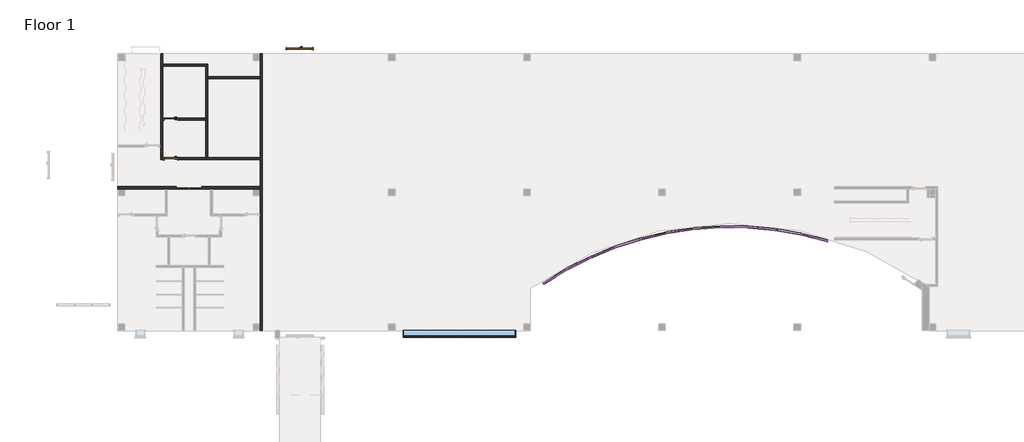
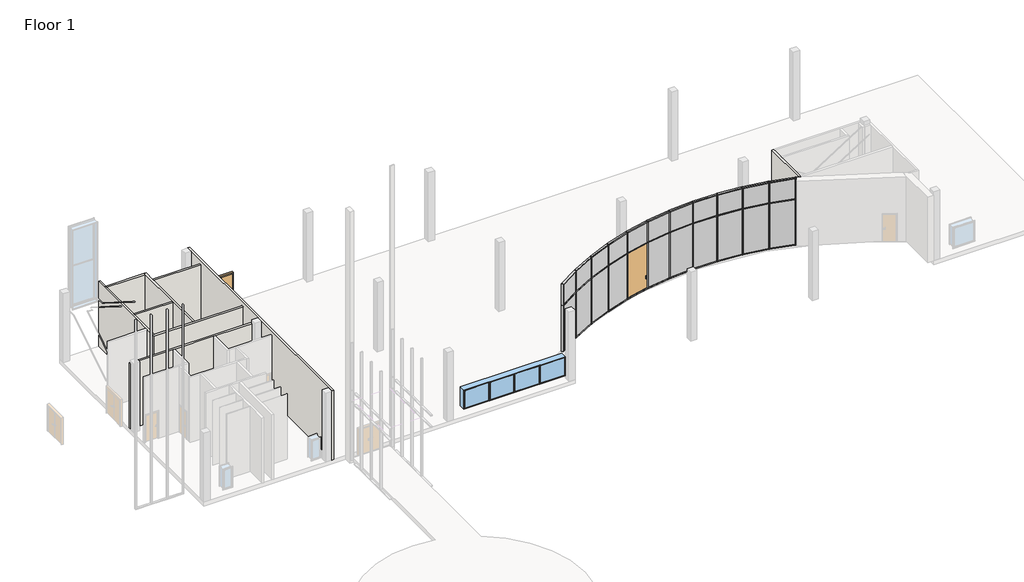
# One storey, part 10 of 11: 57 members, 21 plates, 9 walls, 5 doors, 1 window.
"""IFC4 building model written with IfcOpenShell, lengths in millimetres."""

from ifc_helpers import new_model, si_unit, frame, origin, origin_with_axes, place, context, project, spatial, polyline, circle_curve, outline, extrude, faceted_brep, transform, mapped, element, save
from ifc_brep_helpers import plane_surface, revolved_surface, advanced_brep
from components import door_f1125a27, door_curtain_wall_single_glass_door_curtain_wall_single_fb26e63e, door_efda3cbc, door_36f17018, member_810865a4, member_a8d07153, member_2ed1719b, member_780b0c29, member_079229cb, member_fbbd287a, member_7b0b344d, member_78ef575d, member_0a0eb772, member_38e9bff8, member_4d31274b, member_062c1ce8, system_panel_glazed_f2ce933e, system_panel_glazed_7e716341, system_panel_glazed_e9b7a680, system_panel_glazed_22c1f233, system_panel_glazed_df2c046e, system_panel_glazed_ed69608e, window_casement_multi_sash_horizontal_25_x_5ft_0e5d08e3

model = new_model("IFC4")

# Units and contexts
model_context = context("Model", 3, world=origin())
ifc_project = project(units=[si_unit("LENGTHUNIT", "METRE", prefix="MILLI")], contexts=[model_context])

# Site, building, storey
site = spatial("IfcSite", under=ifc_project)
building = spatial("IfcBuilding", under=site)
storey = spatial("IfcBuildingStorey", under=building, Name="Floor 1", Elevation=0.0)

# Doors
placement = place(None, origin())
door_shape = door_f1125a27(model_context)
element("IfcDoor", 1, ObjectType="Dbl Acting Dbl Glass 1 : 68\" x 84\"", at=placement, inside=storey, context=model_context, shape_type="MappedRepresentation", body=[
    mapped(door_shape, transform((1836.7692024, 48316.361889, 0.0), x_axis=(-1.0, 0.0, 0.0), y_axis=(0.0, -1.0, 0.0), z_axis=(0.0, 0.0, 1.0))),
])
door_curtain_wall_single_glass_door_curtain_wall_single_shape = door_curtain_wall_single_glass_door_curtain_wall_single_fb26e63e(model_context)
element("IfcDoor", 2, ObjectType="Door-Curtain-Wall-Single-Glass : Door-Curtain-Wall-Single-Glass", at=placement, inside=storey, context=model_context, shape_type="MappedRepresentation", body=[
    mapped(door_curtain_wall_single_glass_door_curtain_wall_single_shape, transform((33285.426243, 45040.0257486, 63.5), x_axis=(-0.9735380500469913, -0.22852497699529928, 0.0), y_axis=(0.22852497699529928, -0.9735380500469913, 0.0), z_axis=(0.0, 0.0, 1.0))),
])
door_2_shape = door_efda3cbc(model_context)
element("IfcDoor", 3, ObjectType="Door-Passage-Double-Flush : 68\" x 80\"", at=placement, inside=storey, context=model_context, shape_type="MappedRepresentation", body=[
    mapped(door_2_shape, transform((9318.6567024, 57587.361889, 0.0), x_axis=(1.0, 0.0, 0.0), y_axis=(0.0, 1.0, 0.0), z_axis=(0.0, 0.0, 1.0))),
])
door_3_shape = door_36f17018(model_context)
element("IfcDoor", 4, ObjectType="Door-Passage-Single-Flush : 36\" x 84\"", at=placement, inside=storey, context=model_context, shape_type="MappedRepresentation", body=[
    mapped(door_3_shape, transform((617.5692024, 50253.111889, 0.0), x_axis=(-1.0, 0.0, 0.0), y_axis=(0.0, -1.0, 0.0), z_axis=(0.0, 0.0, 1.0))),
])
element("IfcDoor", 5, ObjectType="Door-Passage-Single-Flush : 36\" x 84\"", at=placement, inside=storey, context=model_context, shape_type="MappedRepresentation", body=[
    mapped(door_3_shape, transform((617.5692024, 52945.511889, 0.0), x_axis=(-1.0, 0.0, 0.0), y_axis=(0.0, -1.0, 0.0), z_axis=(0.0, 0.0, 1.0))),
])

# Members
member_shape = member_810865a4(model_context)
element("IfcMember", 6, ObjectType="Rectangular Mullion1 : 2.5\" x 5\" rectangular", at=placement, inside=storey, context=model_context, shape_type="MappedRepresentation", body=[
    mapped(member_shape, transform((43260.2618426, 45154.6273749, 0.0), x_axis=(-0.9777848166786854, 0.20961119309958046, 0.0), y_axis=(0.20961119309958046, 0.9777848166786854, 0.0), z_axis=(0.0, 0.0, -1.0))),
])
element("IfcMember", 7, ObjectType="Rectangular Mullion1 : 2.5\" x 5\" rectangular", at=placement, inside=storey, context=model_context, shape_type="MappedRepresentation", body=[
    mapped(member_shape, transform((41458.1406847, 45465.8648604, 0.0), x_axis=(-0.991449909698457, 0.1304878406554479, 0.0), y_axis=(0.1304878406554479, 0.991449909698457, 0.0), z_axis=(0.0, 0.0, -1.0))),
])
element("IfcMember", 8, ObjectType="Rectangular Mullion1 : 2.5\" x 5\" rectangular", at=placement, inside=storey, context=model_context, shape_type="MappedRepresentation", body=[
    mapped(member_shape, transform((39636.8583065, 45631.5149097, 0.0), x_axis=(-0.9987228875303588, 0.050523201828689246, 0.0), y_axis=(0.050523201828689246, 0.9987228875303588, 0.0), z_axis=(0.0, 0.0, -1.0))),
])
element("IfcMember", 9, ObjectType="Rectangular Mullion1 : 2.5\" x 5\" rectangular", at=placement, inside=storey, context=model_context, shape_type="MappedRepresentation", body=[
    mapped(member_shape, transform((37808.156952, 45650.5095372, 0.0), x_axis=(-0.9995568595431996, -0.02976717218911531, 0.0), y_axis=(-0.02976717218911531, 0.9995568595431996, 0.0), z_axis=(0.0, 0.0, -1.0))),
])
element("IfcMember", 10, ObjectType="Rectangular Mullion1 : 2.5\" x 5\" rectangular", at=placement, inside=storey, context=model_context, shape_type="MappedRepresentation", body=[
    mapped(member_shape, transform((35983.826697, 45522.7262801, 0.0), x_axis=(-0.9939464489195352, -0.10986563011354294, 0.0), y_axis=(-0.10986563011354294, 0.9939464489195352, 0.0), z_axis=(0.0, 0.0, -1.0))),
])
element("IfcMember", 11, ObjectType="Rectangular Mullion1 : 2.5\" x 5\" rectangular", at=placement, inside=storey, context=model_context, shape_type="MappedRepresentation", body=[
    mapped(member_shape, transform((34175.629436, 45248.9889876, 0.0), x_axis=(-0.9819278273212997, -0.1892557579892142, 0.0), y_axis=(-0.1892557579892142, 0.9819278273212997, 0.0), z_axis=(0.0, 0.0, -1.0))),
])
element("IfcMember", 12, ObjectType="Rectangular Mullion1 : 2.5\" x 5\" rectangular", at=placement, inside=storey, context=model_context, shape_type="MappedRepresentation", body=[
    mapped(member_shape, transform((32395.2230501, 44831.0625097, 0.0), x_axis=(-0.9635784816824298, -0.2674257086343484, 0.0), y_axis=(-0.2674257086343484, 0.9635784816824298, 0.0), z_axis=(0.0, 0.0, -1.0))),
])
element("IfcMember", 13, ObjectType="Rectangular Mullion1 : 2.5\" x 5\" rectangular", at=placement, inside=storey, context=model_context, shape_type="MappedRepresentation", body=[
    mapped(member_shape, transform((30654.0862459, 44271.6413185, 0.0), x_axis=(-0.9390167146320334, -0.3438715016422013, 0.0), y_axis=(-0.3438715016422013, 0.9390167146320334, 0.0), z_axis=(0.0, 0.0, -1.0))),
])
element("IfcMember", 14, ObjectType="Rectangular Mullion1 : 2.5\" x 5\" rectangular", at=placement, inside=storey, context=model_context, shape_type="MappedRepresentation", body=[
    mapped(member_shape, transform((28963.4445498, 43574.3321365, 0.0), x_axis=(-0.908400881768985, -0.41810027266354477, 0.0), y_axis=(-0.41810027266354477, 0.908400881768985, 0.0), z_axis=(0.0, 0.0, -1.0))),
])
element("IfcMember", 15, ObjectType="Rectangular Mullion1 : 2.5\" x 5\" rectangular", at=placement, inside=storey, context=model_context, shape_type="MappedRepresentation", body=[
    mapped(member_shape, transform((27334.1979339, 42743.6306832, 0.0), x_axis=(-0.8719283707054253, -0.4896334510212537, 0.0), y_axis=(-0.4896334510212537, 0.8719283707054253, 0.0), z_axis=(0.0, 0.0, -1.0))),
])
member_2_shape = member_a8d07153(model_context)
element("IfcMember", 16, ObjectType="Rectangular Mullion1 : 2.5\" x 5\" rectangular", at=placement, inside=storey, context=model_context, shape_type="MappedRepresentation", body=[
    mapped(member_2_shape, transform((25856.7132783, 41835.4455096, 5334.0), x_axis=(0.0, 0.0, 1.0), y_axis=(-0.5236640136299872, 0.8519248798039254, 0.0), z_axis=(-0.8519248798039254, -0.5236640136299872, 0.0))),
])
member_3_shape = member_2ed1719b(model_context)
element("IfcMember", 17, ObjectType="Rectangular Mullion1 : 2.5\" x 5\" rectangular", at=placement, inside=storey, context=model_context, shape_type="MappedRepresentation", body=[
    mapped(member_3_shape, transform((44970.0981911, 44715.6013715, 0.0), x_axis=(0.0, 0.0, -1.0), y_axis=(0.24869767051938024, 0.9685811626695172, 0.0), z_axis=(0.9685811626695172, -0.24869767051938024, 0.0))),
])
member_4_shape = member_780b0c29(model_context)
element("IfcMember", 18, ObjectType="Rectangular Mullion1 : 2.5\" x 5\" rectangular", at=placement, inside=storey, context=model_context, shape_type="MappedRepresentation", body=[
    mapped(member_4_shape, transform((43291.0142945, 45146.7312239, 3657.6), x_axis=(0.0, 0.0, 1.0), y_axis=(0.24869767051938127, 0.968581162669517, 0.0), z_axis=(-0.968581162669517, 0.24869767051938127, 0.0))),
])
member_5_shape = member_079229cb(model_context)
element("IfcMember", 19, ObjectType="Rectangular Mullion1 : 2.5\" x 5\" rectangular", at=placement, inside=storey, context=model_context, shape_type="MappedRepresentation", body=[
    mapped(member_5_shape, transform((41489.4275104, 45460.4614318, 3657.6), x_axis=(0.0, 0.0, 1.0), y_axis=(0.17018672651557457, 0.9854118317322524, 0.0), z_axis=(-0.9854118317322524, 0.17018672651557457, 0.0))),
])
element("IfcMember", 20, ObjectType="Rectangular Mullion1 : 2.5\" x 5\" rectangular", at=placement, inside=storey, context=model_context, shape_type="MappedRepresentation", body=[
    mapped(member_5_shape, transform((39668.4777923, 45628.6390408, 3657.6), x_axis=(0.0, 0.0, 1.0), y_axis=(0.09057854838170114, 0.9958893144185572, 0.0), z_axis=(-0.9958893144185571, 0.09057854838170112, 0.0))),
])
element("IfcMember", 21, ObjectType="Rectangular Mullion1 : 2.5\" x 5\" rectangular", at=placement, inside=storey, context=model_context, shape_type="MappedRepresentation", body=[
    mapped(member_5_shape, transform((37839.9052394, 45650.1797694, 3657.6), x_axis=(0.0, 0.0, 1.0), y_axis=(0.010386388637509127, 0.9999460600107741, 0.0), z_axis=(-0.9999460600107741, 0.010386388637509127, 0.0))),
])
element("IfcMember", 22, ObjectType="Rectangular Mullion1 : 2.5\" x 5\" rectangular", at=placement, inside=storey, context=model_context, shape_type="MappedRepresentation", body=[
    mapped(member_5_shape, transform((36015.4990973, 45524.9447394, 3657.6), x_axis=(0.0, 0.0, 1.0), y_axis=(-0.06987273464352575, 0.9975559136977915, 0.0), z_axis=(-0.9975559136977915, -0.06987273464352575, 0.0))),
])
element("IfcMember", 23, ObjectType="Rectangular Mullion1 : 2.5\" x 5\" rectangular", at=placement, inside=storey, context=model_context, shape_type="MappedRepresentation", body=[
    mapped(member_5_shape, transform((34207.0217496, 45253.7413712, 3657.6), x_axis=(0.0, 0.0, 1.0), y_axis=(-0.14968137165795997, 0.9887342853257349, 0.0), z_axis=(-0.9887342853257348, -0.14968137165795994, 0.0))),
])
element("IfcMember", 24, ObjectType="Rectangular Mullion1 : 2.5\" x 5\" rectangular", at=placement, inside=storey, context=model_context, shape_type="MappedRepresentation", body=[
    mapped(member_5_shape, transform((32426.1328832, 44838.3181777, 3657.6), x_axis=(0.0, 0.0, 1.0), y_axis=(-0.22852497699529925, 0.9735380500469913, 0.0), z_axis=(-0.9735380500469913, -0.22852497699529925, 0.0))),
])
element("IfcMember", 25, ObjectType="Rectangular Mullion1 : 2.5\" x 5\" rectangular", at=placement, inside=storey, context=model_context, shape_type="MappedRepresentation", body=[
    mapped(member_5_shape, transform((30684.3143154, 44281.3534919, 3657.6), x_axis=(0.0, 0.0, 1.0), y_axis=(-0.3058952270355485, 0.9520651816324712, 0.0), z_axis=(-0.9520651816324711, -0.30589522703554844, 0.0))),
])
element("IfcMember", 26, ObjectType="Rectangular Mullion1 : 2.5\" x 5\" rectangular", at=placement, inside=storey, context=model_context, shape_type="MappedRepresentation", body=[
    mapped(member_5_shape, transform((28992.7959681, 43586.4381987, 3657.6), x_axis=(0.0, 0.0, 1.0), y_axis=(-0.38129329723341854, 0.924454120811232, 0.0), z_axis=(-0.924454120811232, -0.38129329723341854, 0.0))),
])
element("IfcMember", 27, ObjectType="Rectangular Mullion1 : 2.5\" x 5\" rectangular", at=placement, inside=storey, context=model_context, shape_type="MappedRepresentation", body=[
    mapped(member_5_shape, transform((27362.4834654, 42758.0525834, 3657.6), x_axis=(0.0, 0.0, 1.0), y_axis=(-0.45423307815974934, 0.8908828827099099, 0.0), z_axis=(-0.8908828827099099, -0.45423307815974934, 0.0))),
])
member_6_shape = member_fbbd287a(model_context)
element("IfcMember", 28, ObjectType="Rectangular Mullion1 : 2.5\" x 5\" rectangular", at=placement, inside=storey, context=model_context, shape_type="MappedRepresentation", body=[
    mapped(member_6_shape, transform((25856.7132783, 41835.4455096, 3657.6), x_axis=(0.0, 0.0, 1.0), y_axis=(-0.523664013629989, 0.8519248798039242, 0.0), z_axis=(-0.8519248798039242, -0.523664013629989, 0.0))),
])
member_7_shape = member_7b0b344d(model_context)
element("IfcMember", 29, ObjectType="Rectangular Mullion1 : 2.5\" x 5\" rectangular", at=placement, inside=storey, context=model_context, shape_type="MappedRepresentation", body=[
    mapped(member_7_shape, transform((43228.975017, 45160.0308035, 0.0), x_axis=(0.0, 0.0, -1.0), y_axis=(0.1701867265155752, 0.9854118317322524, 0.0), z_axis=(0.9854118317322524, -0.1701867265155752, 0.0))),
])
element("IfcMember", 30, ObjectType="Rectangular Mullion1 : 2.5\" x 5\" rectangular", at=placement, inside=storey, context=model_context, shape_type="MappedRepresentation", body=[
    mapped(member_7_shape, transform((41426.521199, 45468.7407293, 0.0), x_axis=(0.0, 0.0, -1.0), y_axis=(0.09057854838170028, 0.9958893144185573, 0.0), z_axis=(0.9958893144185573, -0.09057854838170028, 0.0))),
])
element("IfcMember", 31, ObjectType="Rectangular Mullion1 : 2.5\" x 5\" rectangular", at=placement, inside=storey, context=model_context, shape_type="MappedRepresentation", body=[
    mapped(member_7_shape, transform((39605.1100191, 45631.8446775, 0.0), x_axis=(0.0, 0.0, -1.0), y_axis=(0.010386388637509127, 0.9999460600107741, 0.0), z_axis=(0.9999460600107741, -0.010386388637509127, 0.0))),
])
element("IfcMember", 32, ObjectType="Rectangular Mullion1 : 2.5\" x 5\" rectangular", at=placement, inside=storey, context=model_context, shape_type="MappedRepresentation", body=[
    mapped(member_7_shape, transform((37776.4845517, 45648.2910779, 0.0), x_axis=(0.0, 0.0, -1.0), y_axis=(-0.06987273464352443, 0.9975559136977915, 0.0), z_axis=(0.9975559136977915, 0.06987273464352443, 0.0))),
])
element("IfcMember", 33, ObjectType="Rectangular Mullion1 : 2.5\" x 5\" rectangular", at=placement, inside=storey, context=model_context, shape_type="MappedRepresentation", body=[
    mapped(member_7_shape, transform((35952.4343835, 45517.9738965, 0.0), x_axis=(0.0, 0.0, -1.0), y_axis=(-0.14968137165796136, 0.9887342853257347, 0.0), z_axis=(0.9887342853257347, 0.14968137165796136, 0.0))),
])
element("IfcMember", 34, ObjectType="Rectangular Mullion1 : 2.5\" x 5\" rectangular", at=placement, inside=storey, context=model_context, shape_type="MappedRepresentation", body=[
    mapped(member_7_shape, transform((34144.7196029, 45241.7333196, 0.0), x_axis=(0.0, 0.0, -1.0), y_axis=(-0.22852497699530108, 0.9735380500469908, 0.0), z_axis=(0.9735380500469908, 0.22852497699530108, 0.0))),
])
element("IfcMember", 35, ObjectType="Rectangular Mullion1 : 2.5\" x 5\" rectangular", at=placement, inside=storey, context=model_context, shape_type="MappedRepresentation", body=[
    mapped(member_7_shape, transform((32364.9949806, 44821.3503362, 0.0), x_axis=(0.0, 0.0, -1.0), y_axis=(-0.30589522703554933, 0.9520651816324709, 0.0), z_axis=(0.9520651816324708, 0.3058952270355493, 0.0))),
])
element("IfcMember", 36, ObjectType="Rectangular Mullion1 : 2.5\" x 5\" rectangular", at=placement, inside=storey, context=model_context, shape_type="MappedRepresentation", body=[
    mapped(member_7_shape, transform((30624.7348276, 44259.5352563, 0.0), x_axis=(0.0, 0.0, -1.0), y_axis=(-0.38129329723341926, 0.9244541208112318, 0.0), z_axis=(0.9244541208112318, 0.38129329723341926, 0.0))),
])
element("IfcMember", 37, ObjectType="Rectangular Mullion1 : 2.5\" x 5\" rectangular", at=placement, inside=storey, context=model_context, shape_type="MappedRepresentation", body=[
    mapped(member_7_shape, transform((28935.1590182, 43559.9102363, 0.0), x_axis=(0.0, 0.0, -1.0), y_axis=(-0.4542330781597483, 0.8908828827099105, 0.0), z_axis=(0.8908828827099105, 0.4542330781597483, 0.0))),
])
member_8_shape = member_78ef575d(model_context)
element("IfcMember", 38, ObjectType="Rectangular Mullion1 : 2.5\" x 5\" rectangular", at=placement, inside=storey, context=model_context, shape_type="MappedRepresentation", body=[
    mapped(member_8_shape, transform((27307.1493189, 42727.0043507, 0.0), x_axis=(0.0, 0.0, -1.0), y_axis=(-0.5236640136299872, 0.8519248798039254, 0.0), z_axis=(0.8519248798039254, 0.5236640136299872, 0.0))),
])
member_9_shape = member_0a0eb772(model_context)
element("IfcMember", 39, ObjectType="Rectangular Mullion1 : 2.5\" x 5\" rectangular", at=placement, inside=storey, context=model_context, shape_type="MappedRepresentation", body=[
    mapped(member_9_shape, transform((43291.0142945, 45146.7312239, 5334.0), x_axis=(0.0, 0.0, 1.0), y_axis=(0.24869767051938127, 0.968581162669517, 0.0), z_axis=(-0.968581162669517, 0.24869767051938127, 0.0))),
])
element("IfcMember", 40, ObjectType="Rectangular Mullion1 : 2.5\" x 5\" rectangular", at=placement, inside=storey, context=model_context, shape_type="MappedRepresentation", body=[
    mapped(member_7_shape, transform((41489.4275104, 45460.4614318, 5334.0), x_axis=(0.0, 0.0, 1.0), y_axis=(0.17018672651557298, 0.9854118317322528, 0.0), z_axis=(-0.9854118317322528, 0.17018672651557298, 0.0))),
])
element("IfcMember", 41, ObjectType="Rectangular Mullion1 : 2.5\" x 5\" rectangular", at=placement, inside=storey, context=model_context, shape_type="MappedRepresentation", body=[
    mapped(member_7_shape, transform((39668.4777923, 45628.6390408, 5334.0), x_axis=(0.0, 0.0, 1.0), y_axis=(0.09057854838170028, 0.9958893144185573, 0.0), z_axis=(-0.9958893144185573, 0.09057854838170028, 0.0))),
])
element("IfcMember", 42, ObjectType="Rectangular Mullion1 : 2.5\" x 5\" rectangular", at=placement, inside=storey, context=model_context, shape_type="MappedRepresentation", body=[
    mapped(member_7_shape, transform((37839.9052394, 45650.1797694, 5334.0), x_axis=(0.0, 0.0, 1.0), y_axis=(0.010386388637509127, 0.9999460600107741, 0.0), z_axis=(-0.9999460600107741, 0.010386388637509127, 0.0))),
])
element("IfcMember", 43, ObjectType="Rectangular Mullion1 : 2.5\" x 5\" rectangular", at=placement, inside=storey, context=model_context, shape_type="MappedRepresentation", body=[
    mapped(member_7_shape, transform((36015.4990973, 45524.9447394, 5334.0), x_axis=(0.0, 0.0, 1.0), y_axis=(-0.0698727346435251, 0.9975559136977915, 0.0), z_axis=(-0.9975559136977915, -0.0698727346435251, 0.0))),
])
element("IfcMember", 44, ObjectType="Rectangular Mullion1 : 2.5\" x 5\" rectangular", at=placement, inside=storey, context=model_context, shape_type="MappedRepresentation", body=[
    mapped(member_7_shape, transform((34207.0217496, 45253.7413712, 5334.0), x_axis=(0.0, 0.0, 1.0), y_axis=(-0.14968137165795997, 0.9887342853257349, 0.0), z_axis=(-0.9887342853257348, -0.14968137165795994, 0.0))),
])
element("IfcMember", 45, ObjectType="Rectangular Mullion1 : 2.5\" x 5\" rectangular", at=placement, inside=storey, context=model_context, shape_type="MappedRepresentation", body=[
    mapped(member_7_shape, transform((32426.1328832, 44838.3181777, 5334.0), x_axis=(0.0, 0.0, 1.0), y_axis=(-0.22852497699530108, 0.9735380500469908, 0.0), z_axis=(-0.9735380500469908, -0.22852497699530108, 0.0))),
])
element("IfcMember", 46, ObjectType="Rectangular Mullion1 : 2.5\" x 5\" rectangular", at=placement, inside=storey, context=model_context, shape_type="MappedRepresentation", body=[
    mapped(member_7_shape, transform((30684.3143154, 44281.3534919, 5334.0), x_axis=(0.0, 0.0, 1.0), y_axis=(-0.30589522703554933, 0.9520651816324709, 0.0), z_axis=(-0.9520651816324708, -0.3058952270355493, 0.0))),
])
element("IfcMember", 47, ObjectType="Rectangular Mullion1 : 2.5\" x 5\" rectangular", at=placement, inside=storey, context=model_context, shape_type="MappedRepresentation", body=[
    mapped(member_7_shape, transform((28992.7959681, 43586.4381987, 5334.0), x_axis=(0.0, 0.0, 1.0), y_axis=(-0.38129329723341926, 0.9244541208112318, 0.0), z_axis=(-0.9244541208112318, -0.38129329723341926, 0.0))),
])
element("IfcMember", 48, ObjectType="Rectangular Mullion1 : 2.5\" x 5\" rectangular", at=placement, inside=storey, context=model_context, shape_type="MappedRepresentation", body=[
    mapped(member_7_shape, transform((27362.4834654, 42758.0525834, 5334.0), x_axis=(0.0, 0.0, 1.0), y_axis=(-0.4542330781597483, 0.8908828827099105, 0.0), z_axis=(-0.8908828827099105, -0.4542330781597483, 0.0))),
])
member_10_shape = member_38e9bff8(model_context)
element("IfcMember", 49, ObjectType="Rectangular Mullion1 : 2.5\" x 5\" rectangular", at=placement, inside=storey, context=model_context, shape_type="MappedRepresentation", body=[
    mapped(member_10_shape, transform((43260.2618426, 45154.6273749, 3657.6), x_axis=(-0.9777848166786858, 0.20961119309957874, 0.0), y_axis=(0.20961119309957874, 0.9777848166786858, 0.0), z_axis=(0.0, 0.0, -1.0))),
])
element("IfcMember", 50, ObjectType="Rectangular Mullion1 : 2.5\" x 5\" rectangular", at=placement, inside=storey, context=model_context, shape_type="MappedRepresentation", body=[
    mapped(member_10_shape, transform((41458.1406847, 45465.8648604, 3657.6), x_axis=(-0.991449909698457, 0.1304878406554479, 0.0), y_axis=(0.1304878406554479, 0.991449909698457, 0.0), z_axis=(0.0, 0.0, -1.0))),
])
element("IfcMember", 51, ObjectType="Rectangular Mullion1 : 2.5\" x 5\" rectangular", at=placement, inside=storey, context=model_context, shape_type="MappedRepresentation", body=[
    mapped(member_10_shape, transform((39636.8583065, 45631.5149097, 3657.6), x_axis=(-0.9987228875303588, 0.050523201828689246, 0.0), y_axis=(0.050523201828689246, 0.9987228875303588, 0.0), z_axis=(0.0, 0.0, -1.0))),
])
element("IfcMember", 52, ObjectType="Rectangular Mullion1 : 2.5\" x 5\" rectangular", at=placement, inside=storey, context=model_context, shape_type="MappedRepresentation", body=[
    mapped(member_10_shape, transform((37808.156952, 45650.5095372, 3657.6), x_axis=(-0.9995568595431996, -0.02976717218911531, 0.0), y_axis=(-0.02976717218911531, 0.9995568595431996, 0.0), z_axis=(0.0, 0.0, -1.0))),
])
element("IfcMember", 53, ObjectType="Rectangular Mullion1 : 2.5\" x 5\" rectangular", at=placement, inside=storey, context=model_context, shape_type="MappedRepresentation", body=[
    mapped(member_10_shape, transform((35983.826697, 45522.7262801, 3657.6), x_axis=(-0.9939464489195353, -0.10986563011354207, 0.0), y_axis=(-0.10986563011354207, 0.9939464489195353, 0.0), z_axis=(0.0, 0.0, -1.0))),
])
element("IfcMember", 54, ObjectType="Rectangular Mullion1 : 2.5\" x 5\" rectangular", at=placement, inside=storey, context=model_context, shape_type="MappedRepresentation", body=[
    mapped(member_10_shape, transform((34175.629436, 45248.9889876, 3657.6), x_axis=(-0.9819278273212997, -0.1892557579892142, 0.0), y_axis=(-0.1892557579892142, 0.9819278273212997, 0.0), z_axis=(0.0, 0.0, -1.0))),
])
element("IfcMember", 55, ObjectType="Rectangular Mullion1 : 2.5\" x 5\" rectangular", at=placement, inside=storey, context=model_context, shape_type="MappedRepresentation", body=[
    mapped(member_10_shape, transform((32395.2230501, 44831.0625097, 3657.6), x_axis=(-0.9635784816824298, -0.2674257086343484, 0.0), y_axis=(-0.2674257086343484, 0.9635784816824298, 0.0), z_axis=(0.0, 0.0, -1.0))),
])
element("IfcMember", 56, ObjectType="Rectangular Mullion1 : 2.5\" x 5\" rectangular", at=placement, inside=storey, context=model_context, shape_type="MappedRepresentation", body=[
    mapped(member_10_shape, transform((30654.0862459, 44271.6413185, 3657.6), x_axis=(-0.9390167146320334, -0.3438715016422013, 0.0), y_axis=(-0.3438715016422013, 0.9390167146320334, 0.0), z_axis=(0.0, 0.0, -1.0))),
])
element("IfcMember", 57, ObjectType="Rectangular Mullion1 : 2.5\" x 5\" rectangular", at=placement, inside=storey, context=model_context, shape_type="MappedRepresentation", body=[
    mapped(member_10_shape, transform((28963.4445498, 43574.3321365, 3657.6), x_axis=(-0.908400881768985, -0.41810027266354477, 0.0), y_axis=(-0.41810027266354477, 0.908400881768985, 0.0), z_axis=(0.0, 0.0, -1.0))),
])
element("IfcMember", 58, ObjectType="Rectangular Mullion1 : 2.5\" x 5\" rectangular", at=placement, inside=storey, context=model_context, shape_type="MappedRepresentation", body=[
    mapped(member_10_shape, transform((27334.1979339, 42743.6306832, 3657.6), x_axis=(-0.8719283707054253, -0.4896334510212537, 0.0), y_axis=(-0.4896334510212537, 0.8719283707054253, 0.0), z_axis=(0.0, 0.0, -1.0))),
])
member_11_shape = member_4d31274b(model_context)
element("IfcMember", 59, ObjectType="Rectangular Mullion1 : 2.5\" x 5\" rectangular", at=placement, inside=storey, context=model_context, shape_type="MappedRepresentation", body=[
    mapped(member_11_shape, transform((25802.6160485, 41802.1928448, 0.0), x_axis=(-0.8519248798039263, -0.5236640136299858, 0.0), y_axis=(-0.5236640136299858, 0.8519248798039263, 0.0), z_axis=(0.0, 0.0, -1.0))),
])
member_12_shape = member_062c1ce8(model_context)
element("IfcMember", 60, ObjectType="Rectangular Mullion1 : 2.5\" x 5\" rectangular", at=placement, inside=storey, context=model_context, shape_type="MappedRepresentation", body=[
    mapped(member_12_shape, transform((45031.6030949, 44699.8090694, 5334.0), x_axis=(0.9685811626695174, -0.2486976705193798, 0.0), y_axis=(0.2486976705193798, 0.9685811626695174, 0.0), z_axis=(0.0, 0.0, 1.0))),
])
element("IfcMember", 61, ObjectType="Rectangular Mullion1 : 2.5\" x 5\" rectangular", at=placement, inside=storey, context=model_context, shape_type="MappedRepresentation", body=[
    mapped(member_11_shape, transform((45031.6030949, 44699.8090694, 3657.6), x_axis=(0.9685811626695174, -0.2486976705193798, 0.0), y_axis=(0.2486976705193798, 0.9685811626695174, 0.0), z_axis=(0.0, 0.0, 1.0))),
])
element("IfcMember", 62, ObjectType="Rectangular Mullion1 : 2.5\" x 5\" rectangular", at=placement, inside=storey, context=model_context, shape_type="MappedRepresentation", body=[
    mapped(member_12_shape, transform((25802.6160485, 41802.1928448, 3657.6), x_axis=(-0.8519248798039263, -0.5236640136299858, 0.0), y_axis=(-0.5236640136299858, 0.8519248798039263, 0.0), z_axis=(0.0, 0.0, -1.0))),
])

# Plates
system_panel_glazed_shape = system_panel_glazed_f2ce933e(model_context)
element("IfcPlate", 63, ObjectType="System Panel : Glazed", at=placement, inside=storey, context=model_context, shape_type="MappedRepresentation", body=[
    mapped(system_panel_glazed_shape, transform((44130.5562428, 44931.1662977, 63.5), x_axis=(-0.9685811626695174, 0.2486976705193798, 0.0), y_axis=(-0.2486976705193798, -0.9685811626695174, 0.0), z_axis=(0.0, 0.0, 1.0))),
])
system_panel_glazed_2_shape = system_panel_glazed_7e716341(model_context)
element("IfcPlate", 64, ObjectType="System Panel : Glazed", at=placement, inside=storey, context=model_context, shape_type="MappedRepresentation", body=[
    mapped(system_panel_glazed_2_shape, transform((42359.2012637, 45310.2461177, 63.5), x_axis=(-0.9854118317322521, 0.17018672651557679, 0.0), y_axis=(-0.17018672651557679, -0.9854118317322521, 0.0), z_axis=(0.0, 0.0, 1.0))),
])
element("IfcPlate", 65, ObjectType="System Panel : Glazed", at=placement, inside=storey, context=model_context, shape_type="MappedRepresentation", body=[
    mapped(system_panel_glazed_2_shape, transform((40547.4994956, 45548.689885, 63.5), x_axis=(-0.9958893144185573, 0.09057854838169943, 0.0), y_axis=(-0.09057854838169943, -0.9958893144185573, 0.0), z_axis=(0.0, 0.0, 1.0))),
])
element("IfcPlate", 66, ObjectType="System Panel : Glazed", at=placement, inside=storey, context=model_context, shape_type="MappedRepresentation", body=[
    mapped(system_panel_glazed_2_shape, transform((38722.5076293, 45641.0122234, 63.5), x_axis=(-0.9999460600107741, 0.010386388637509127, 0.0), y_axis=(-0.010386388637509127, -0.9999460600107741, 0.0), z_axis=(0.0, 0.0, 1.0))),
])
element("IfcPlate", 67, ObjectType="System Panel : Glazed", at=placement, inside=storey, context=model_context, shape_type="MappedRepresentation", body=[
    mapped(system_panel_glazed_2_shape, transform((36895.9918245, 45586.6179087, 63.5), x_axis=(-0.9975559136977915, -0.0698727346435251, 0.0), y_axis=(0.0698727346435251, -0.9975559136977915, 0.0), z_axis=(0.0, 0.0, 1.0))),
])
element("IfcPlate", 68, ObjectType="System Panel : Glazed", at=placement, inside=storey, context=model_context, shape_type="MappedRepresentation", body=[
    mapped(system_panel_glazed_2_shape, transform((35079.7280665, 45385.8576339, 63.5), x_axis=(-0.9887342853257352, -0.14968137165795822, 0.0), y_axis=(0.14968137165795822, -0.9887342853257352, 0.0), z_axis=(0.0, 0.0, 1.0))),
])
element("IfcPlate", 69, ObjectType="System Panel : Glazed", at=placement, inside=storey, context=model_context, shape_type="MappedRepresentation", body=[
    mapped(system_panel_glazed_2_shape, transform((31524.654648, 44551.3519141, 63.5), x_axis=(-0.9520651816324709, -0.3058952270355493, 0.0), y_axis=(0.3058952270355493, -0.9520651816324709, 0.0), z_axis=(0.0, 0.0, 1.0))),
])
element("IfcPlate", 70, ObjectType="System Panel : Glazed", at=placement, inside=storey, context=model_context, shape_type="MappedRepresentation", body=[
    mapped(system_panel_glazed_2_shape, transform((29808.7653978, 43922.9867275, 63.5), x_axis=(-0.9244541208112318, -0.38129329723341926, 0.0), y_axis=(0.38129329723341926, -0.9244541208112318, 0.0), z_axis=(0.0, 0.0, 1.0))),
])
element("IfcPlate", 71, ObjectType="System Panel : Glazed", at=placement, inside=storey, context=model_context, shape_type="MappedRepresentation", body=[
    mapped(system_panel_glazed_2_shape, transform((28148.8212418, 43158.9814098, 63.5), x_axis=(-0.8908828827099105, -0.45423307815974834, 0.0), y_axis=(0.45423307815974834, -0.8908828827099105, 0.0), z_axis=(0.0, 0.0, 1.0))),
])
system_panel_glazed_3_shape = system_panel_glazed_e9b7a680(model_context)
element("IfcPlate", 72, ObjectType="System Panel : Glazed", at=placement, inside=storey, context=model_context, shape_type="MappedRepresentation", body=[
    mapped(system_panel_glazed_3_shape, transform((26581.9312986, 42281.2249302, 63.5), x_axis=(-0.8519248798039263, -0.5236640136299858, 0.0), y_axis=(0.5236640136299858, -0.8519248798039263, 0.0), z_axis=(0.0, 0.0, 1.0))),
])
system_panel_glazed_4_shape = system_panel_glazed_22c1f233(model_context)
element("IfcPlate", 73, ObjectType="System Panel : Glazed", at=placement, inside=storey, context=model_context, shape_type="MappedRepresentation", body=[
    mapped(system_panel_glazed_4_shape, transform((44130.5562428, 44931.1662977, 3689.35), x_axis=(-0.9685811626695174, 0.2486976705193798, 0.0), y_axis=(-0.2486976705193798, -0.9685811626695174, 0.0), z_axis=(0.0, 0.0, 1.0))),
])
system_panel_glazed_5_shape = system_panel_glazed_df2c046e(model_context)
element("IfcPlate", 74, ObjectType="System Panel : Glazed", at=placement, inside=storey, context=model_context, shape_type="MappedRepresentation", body=[
    mapped(system_panel_glazed_5_shape, transform((42359.2012637, 45310.2461177, 3689.35), x_axis=(-0.9854118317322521, 0.17018672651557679, 0.0), y_axis=(-0.17018672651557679, -0.9854118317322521, 0.0), z_axis=(0.0, 0.0, 1.0))),
])
element("IfcPlate", 75, ObjectType="System Panel : Glazed", at=placement, inside=storey, context=model_context, shape_type="MappedRepresentation", body=[
    mapped(system_panel_glazed_5_shape, transform((40547.4994956, 45548.689885, 3689.35), x_axis=(-0.9958893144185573, 0.09057854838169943, 0.0), y_axis=(-0.09057854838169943, -0.9958893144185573, 0.0), z_axis=(0.0, 0.0, 1.0))),
])
element("IfcPlate", 76, ObjectType="System Panel : Glazed", at=placement, inside=storey, context=model_context, shape_type="MappedRepresentation", body=[
    mapped(system_panel_glazed_5_shape, transform((38722.5076293, 45641.0122234, 3689.35), x_axis=(-0.9999460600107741, 0.010386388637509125, 0.0), y_axis=(-0.010386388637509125, -0.9999460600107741, 0.0), z_axis=(0.0, 0.0, 1.0))),
])
element("IfcPlate", 77, ObjectType="System Panel : Glazed", at=placement, inside=storey, context=model_context, shape_type="MappedRepresentation", body=[
    mapped(system_panel_glazed_5_shape, transform((36895.9918245, 45586.6179087, 3689.35), x_axis=(-0.9975559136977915, -0.06987273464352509, 0.0), y_axis=(0.06987273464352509, -0.9975559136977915, 0.0), z_axis=(0.0, 0.0, 1.0))),
])
element("IfcPlate", 78, ObjectType="System Panel : Glazed", at=placement, inside=storey, context=model_context, shape_type="MappedRepresentation", body=[
    mapped(system_panel_glazed_5_shape, transform((35079.7280665, 45385.8576339, 3689.35), x_axis=(-0.9887342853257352, -0.1496813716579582, 0.0), y_axis=(0.1496813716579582, -0.9887342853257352, 0.0), z_axis=(0.0, 0.0, 1.0))),
])
element("IfcPlate", 79, ObjectType="System Panel : Glazed", at=placement, inside=storey, context=model_context, shape_type="MappedRepresentation", body=[
    mapped(system_panel_glazed_5_shape, transform((33285.426243, 45040.0257486, 3689.35), x_axis=(-0.9735380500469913, -0.22852497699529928, 0.0), y_axis=(0.22852497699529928, -0.9735380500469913, 0.0), z_axis=(0.0, 0.0, 1.0))),
])
element("IfcPlate", 80, ObjectType="System Panel : Glazed", at=placement, inside=storey, context=model_context, shape_type="MappedRepresentation", body=[
    mapped(system_panel_glazed_5_shape, transform((31524.654648, 44551.3519141, 3689.35), x_axis=(-0.9520651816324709, -0.30589522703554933, 0.0), y_axis=(0.30589522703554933, -0.9520651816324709, 0.0), z_axis=(0.0, 0.0, 1.0))),
])
element("IfcPlate", 81, ObjectType="System Panel : Glazed", at=placement, inside=storey, context=model_context, shape_type="MappedRepresentation", body=[
    mapped(system_panel_glazed_5_shape, transform((29808.7653978, 43922.9867275, 3689.35), x_axis=(-0.9244541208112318, -0.3812932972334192, 0.0), y_axis=(0.3812932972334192, -0.9244541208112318, 0.0), z_axis=(0.0, 0.0, 1.0))),
])
element("IfcPlate", 82, ObjectType="System Panel : Glazed", at=placement, inside=storey, context=model_context, shape_type="MappedRepresentation", body=[
    mapped(system_panel_glazed_5_shape, transform((28148.8212418, 43158.9814098, 3689.35), x_axis=(-0.8908828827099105, -0.45423307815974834, 0.0), y_axis=(0.45423307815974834, -0.8908828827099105, 0.0), z_axis=(0.0, 0.0, 1.0))),
])
system_panel_glazed_6_shape = system_panel_glazed_ed69608e(model_context)
element("IfcPlate", 83, ObjectType="System Panel : Glazed", at=placement, inside=storey, context=model_context, shape_type="MappedRepresentation", body=[
    mapped(system_panel_glazed_6_shape, transform((26581.9312986, 42281.2249302, 3689.35), x_axis=(-0.8519248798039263, -0.5236640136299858, 0.0), y_axis=(0.5236640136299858, -0.8519248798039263, 0.0), z_axis=(0.0, 0.0, 1.0))),
])

# Walls
element("IfcWall", 84, ObjectType="Generic - 6\" Masonry", at=placement, inside=storey, context=model_context, shape_type="Brep", body=[
    faceted_brep([(6656.4192024, 57366.699389, 0.0), (6656.4192024, 55815.711889, 0.0), (6656.4192024, 55676.011889, 0.0), (6656.4192024, 50329.311889, 0.0), (6656.4192024, 50189.611889, 0.0), (6656.4192024, 48360.811889, 0.0), (6656.4192024, 48221.111889, 0.0), (6656.4192024, 46532.011889, 0.0), (6656.4192024, 46392.311889, 0.0), (6656.4192024, 38618.324389, 0.0), (6656.4192024, 38618.324389, 5486.4), (6656.4192024, 57366.699389, 5486.4), (6799.2942024, 57366.699389, 0.0), (6799.2942024, 57366.699389, 5486.4), (6799.2942024, 38618.324389, 5486.4), (6799.2942024, 38618.324389, 0.0)], [[[0, 1, 2, 3, 4, 5, 6, 7, 8, 9, 10, 11]], [[12, 13, 14, 15]], [[9, 8, 7, 6, 5, 4, 3, 2, 1, 0, 12, 15]], [[11, 10, 14, 13]], [[10, 9, 15, 14]], [[0, 11, 13, 12]]]),
])
element("IfcWall", 85, ObjectType="Interior - 5 1/2\" Partition (1-hr)", at=placement, inside=storey, context=model_context, shape_type="Brep", body=[
    faceted_brep([(973.1692024, 48360.811889, 2133.6), (973.1692024, 48360.811889, 0.0), (-2965.7977165, 48360.811889, 0.0), (-2965.7977165, 48360.811889, 5181.6), (6656.4192024, 48360.811889, 5181.6), (6656.4192024, 48360.811889, 0.0), (2700.3692024, 48360.811889, 0.0), (2700.3692024, 48360.811889, 2133.6), (-2965.7977165, 48221.111889, 0.0), (242.9192024, 48221.111889, 0.0), (382.6192024, 48221.111889, 0.0), (973.1692024, 48221.111889, 0.0), (973.1692024, 48221.111889, 2133.6), (2700.3692024, 48221.111889, 2133.6), (2700.3692024, 48221.111889, 0.0), (3290.9192024, 48221.111889, 0.0), (3430.6192024, 48221.111889, 0.0), (6656.4192024, 48221.111889, 0.0), (6656.4192024, 48221.111889, 5181.6), (3430.6192024, 48221.111889, 5181.6), (3290.9192024, 48221.111889, 5181.6), (382.6192024, 48221.111889, 5181.6), (242.9192024, 48221.111889, 5181.6), (-2965.7977165, 48221.111889, 5181.6)], [[[0, 1, 2, 3, 4, 5, 6, 7]], [[8, 9, 10, 11, 12, 13, 14, 15, 16, 17, 18, 19, 20, 21, 22, 23]], [[2, 1, 11, 10, 9, 8]], [[6, 5, 17, 16, 15, 14]], [[3, 2, 8, 23]], [[5, 4, 18, 17]], [[4, 3, 23, 22, 21, 20, 19, 18]], [[12, 11, 1, 0]], [[13, 12, 0, 7]], [[14, 13, 7, 6]]]),
])
element("IfcWall", 86, ObjectType="Interior - 5 1/2\" Partition (1-hr)", at=placement, inside=storey, context=model_context, shape_type="Brep", body=[
    faceted_brep([(109.5692024, 50329.311889, 2235.2), (109.5692024, 50329.311889, 0.0), (77.8192024, 50329.311889, 0.0), (-61.8807976, 50329.311889, 0.0), (-61.8807976, 50329.311889, 5181.6), (77.8192024, 50329.311889, 5181.6), (2954.3692024, 50329.311889, 5181.6), (3094.0692024, 50329.311889, 5181.6), (6637.3692024, 50329.311889, 5181.6), (6656.4192024, 50329.311889, 5181.6), (6656.4192024, 50329.311889, 0.0), (3094.0692024, 50329.311889, 0.0), (2954.3692024, 50329.311889, 0.0), (1125.5692024, 50329.311889, 0.0), (1125.5692024, 50329.311889, 2235.2), (-61.8807976, 50189.611889, 0.0), (109.5692024, 50189.611889, 0.0), (109.5692024, 50189.611889, 2235.2), (1125.5692024, 50189.611889, 2235.2), (1125.5692024, 50189.611889, 0.0), (6656.4192024, 50189.611889, 0.0), (6656.4192024, 50189.611889, 5181.6), (-61.8807976, 50189.611889, 5181.6)], [[[0, 1, 2, 3, 4, 5, 6, 7, 8, 9, 10, 11, 12, 13, 14]], [[15, 16, 17, 18, 19, 20, 21, 22]], [[3, 2, 1, 16, 15]], [[13, 12, 11, 10, 20, 19]], [[4, 3, 15, 22]], [[9, 8, 7, 6, 5, 4, 22, 21]], [[10, 9, 21, 20]], [[17, 16, 1, 0]], [[18, 17, 0, 14]], [[19, 18, 14, 13]]]),
])
element("IfcWall", 87, ObjectType="Interior - 5 1/2\" Partition (1-hr)", at=placement, inside=storey, context=model_context, shape_type="Brep", body=[
    faceted_brep([(77.8192024, 50329.311889, 0.0), (77.8192024, 52882.011889, 0.0), (77.8192024, 53021.711889, 0.0), (77.8192024, 56514.211889, 0.0), (77.8192024, 56653.911889, 0.0), (77.8192024, 57366.699389, 0.0), (77.8192024, 57366.699389, 5181.6), (77.8192024, 56653.911889, 5181.6), (77.8192024, 56514.211889, 5181.6), (77.8192024, 53021.711889, 5181.6), (77.8192024, 52882.011889, 5181.6), (77.8192024, 50329.311889, 5181.6), (-61.8807976, 50329.311889, 0.0), (-61.8807976, 50329.311889, 5181.6), (-61.8807976, 51053.211889, 5181.6), (-61.8807976, 51192.911889, 5181.6), (-61.8807976, 52970.911889, 5181.6), (-61.8807976, 56653.911889, 5181.6), (-61.8807976, 57366.699389, 5181.6), (-61.8807976, 57366.699389, 0.0), (-61.8807976, 51192.911889, 0.0), (-61.8807976, 51053.211889, 0.0)], [[[0, 1, 2, 3, 4, 5, 6, 7, 8, 9, 10, 11]], [[12, 13, 14, 15, 16, 17, 18, 19, 20, 21]], [[5, 4, 3, 2, 1, 0, 12, 21, 20, 19]], [[0, 11, 13, 12]], [[6, 5, 19, 18]], [[7, 6, 18, 17]], [[11, 10, 9, 8, 7, 17, 16, 15, 14, 13]]]),
])
element("IfcWall", 88, ObjectType="Interior - 5 1/2\" Partition (1-hr)", at=placement, inside=storey, context=model_context, shape_type="Brep", body=[
    faceted_brep([(3094.0692024, 50329.311889, 0.0), (3094.0692024, 55676.011889, 0.0), (3094.0692024, 55815.711889, 0.0), (3094.0692024, 56653.911889, 0.0), (3094.0692024, 56653.911889, 5181.6), (3094.0692024, 55815.711889, 5181.6), (3094.0692024, 55676.011889, 5181.6), (3094.0692024, 50329.311889, 5181.6), (2954.3692024, 50329.311889, 0.0), (2954.3692024, 50329.311889, 5181.6), (2954.3692024, 52882.011889, 5181.6), (2954.3692024, 53021.711889, 5181.6), (2954.3692024, 56514.211889, 5181.6), (2954.3692024, 56653.911889, 5181.6), (2954.3692024, 56653.911889, 0.0), (2954.3692024, 56514.211889, 0.0), (2954.3692024, 53021.711889, 0.0), (2954.3692024, 52882.011889, 0.0)], [[[0, 1, 2, 3, 4, 5, 6, 7]], [[8, 9, 10, 11, 12, 13, 14, 15, 16, 17]], [[3, 2, 1, 0, 8, 17, 16, 15, 14]], [[4, 3, 14, 13]], [[0, 7, 9, 8]], [[7, 6, 5, 4, 13, 12, 11, 10, 9]]]),
])
element("IfcWall", 89, ObjectType="Interior - 5 1/2\" Partition (1-hr)", at=placement, inside=storey, context=model_context, shape_type="SweptSolid", body=[
    extrude(outline(polyline([(77.8192024, 56653.911889), (2954.3692024, 56653.911889), (2954.3692024, 56514.211889), (77.8192024, 56514.211889), (77.8192024, 56653.911889)])), origin_with_axes(), (0.0, 0.0, 1.0), 5181.6),
])
element("IfcWall", 90, ObjectType="Interior - 5 1/2\" Partition (1-hr)", at=placement, inside=storey, context=model_context, shape_type="SweptSolid", body=[
    extrude(outline(polyline([(0.0, 3094.0692024), (0.0, 6656.4192024), (5181.6, 6656.4192024), (5181.6, 6637.3692024), (5181.6, 3094.0692024), (0.0, 3094.0692024)])), frame((0.0, 55676.011889, 0.0), z_axis=(0.0, 1.0, 0.0), x_axis=(0.0, 0.0, 1.0)), (0.0, 0.0, 1.0), 139.7),
])
element("IfcWall", 91, ObjectType="Interior - 5 1/2\" Partition (1-hr)", at=placement, inside=storey, context=model_context, shape_type="SweptSolid", body=[
    extrude(outline(polyline([(0.0, 77.8192024), (0.0, 109.5692024), (2235.2, 109.5692024), (2235.2, 1125.5692024), (0.0, 1125.5692024), (0.0, 2954.3692024), (5181.6, 2954.3692024), (5181.6, 77.8192024), (0.0, 77.8192024)])), frame((0.0, 52882.011889, 0.0), z_axis=(0.0, 1.0, 0.0), x_axis=(0.0, 0.0, 1.0)), (0.0, 0.0, 1.0), 139.7),
])
element("IfcWall", 92, ObjectType="Interior - 5 1/2\" Partition (1-hr)", at=placement, inside=storey, context=model_context, shape_type="AdvancedBrep", body=[
    advanced_brep(
    [(45482.274456, 44797.9057162, 0.0), (45482.274456, 47262.261889, 0.0), (45482.274456, 47401.961889, 0.0), (45482.274456, 48221.111889, 0.0), (45482.274456, 48360.811889, 0.0), (45482.274456, 48360.811889, 5181.6), (45482.274456, 48221.111889, 5181.6), (45482.274456, 47401.961889, 5181.6), (45482.274456, 47262.261889, 5181.6), (45482.274456, 44906.411889, 5181.6), (45482.274456, 44797.9057162, 5181.6), (45342.574456, 44842.0170566, 0.0), (45342.574456, 44842.0170566, 5181.6), (45342.574456, 48360.811889, 5181.6), (45342.574456, 48360.811889, 0.0)],
    [
        (0, 1),
        (1, 2),
        (2, 3),
        (3, 4),
        (4, 5),
        (5, 6),
        (6, 7),
        (7, 8),
        (8, 9),
        (9, 10),
        (10, 0),
        (11, 12),
        (12, 13),
        (13, 14),
        (14, 11),
        (0, 11, circle_curve(frame((38486.136956, 22884.5054507, 0.0), z_axis=(0.0, 0.0, 1.0), x_axis=(1.0, 0.0, 0.0)), 23003.1095965)),
        (14, 4),
        (13, 5),
        (10, 12, circle_curve(frame((38486.136956, 22884.5054507, 5181.6), z_axis=(0.0, 0.0, 1.0), x_axis=(1.0, 0.0, 0.0)), 23003.1095965)),
    ],
    [
        plane_surface(frame((45482.274456, 44926.0870653, 0.0), z_axis=(1.0, 0.0, 0.0), x_axis=(0.0, 1.0, 0.0))),
        plane_surface(frame((45342.574456, 44926.0870653, 0.0), z_axis=(-1.0, 0.0, 0.0), x_axis=(0.0, -1.0, 0.0))),
        plane_surface(frame((45482.274456, 44581.9048437, 0.0), z_axis=(0.0, 0.0, -1.0), x_axis=(-1.0, 0.0, 0.0))),
        plane_surface(frame((45412.424456, 48360.811889, 0.0), z_axis=(0.0, 1.0, 0.0), x_axis=(-1.0, 0.0, 0.0))),
        revolved_surface(polyline([(61489.2465525, 22884.5054507, 5181.6), (61489.2465525, 22884.5054507, 0.0)]), (38486.136956, 22884.5054507, 0.0), (0.0, 0.0, 1.0)),
        plane_surface(frame((61502.9567024, 57366.699389, 5181.6), z_axis=(0.0, 0.0, 1.0), x_axis=(0.0, -1.0, 0.0))),
    ],
    [
        (0, [[1, 2, 3, 4, 5, 6, 7, 8, 9, 10, 11]]),
        (1, [[12, 13, 14, 15]]),
        (2, [[-4, -3, -2, -1, 16, -15, 17]]),
        (3, [[-5, -17, -14, 18]]),
        (4, [[-11, 19, -12, -16]]),
        (5, [[-10, -9, -8, -7, -6, -18, -13, -19]]),
    ],
),
])

# Window
window_casement_multi_sash_horizontal_25_x_5ft_shape = window_casement_multi_sash_horizontal_25_x_5ft_0e5d08e3(model_context)
element("IfcWindow", 93, ObjectType="Window-Casement-Multi-Sash-Horizontal : 25 x 5ft", at=placement, inside=storey, context=model_context, shape_type="MappedRepresentation", body=[
    mapped(window_casement_multi_sash_horizontal_25_x_5ft_shape, transform((20124.7692024, 38391.311889, 0.0), x_axis=(-1.0, 0.0, 0.0), y_axis=(0.0, -1.0, 0.0), z_axis=(0.0, 0.0, 1.0))),
])

save(model, "model.ifc")
